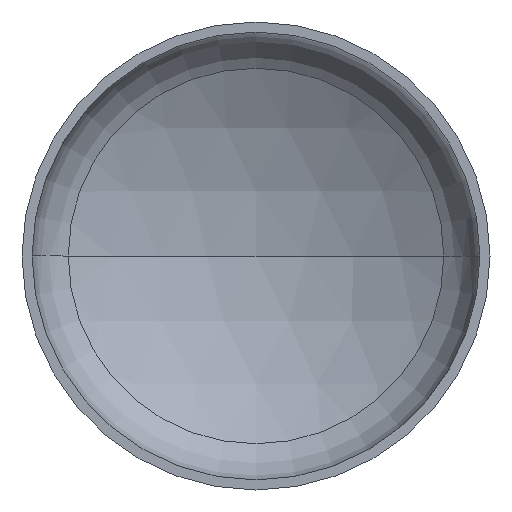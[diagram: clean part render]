
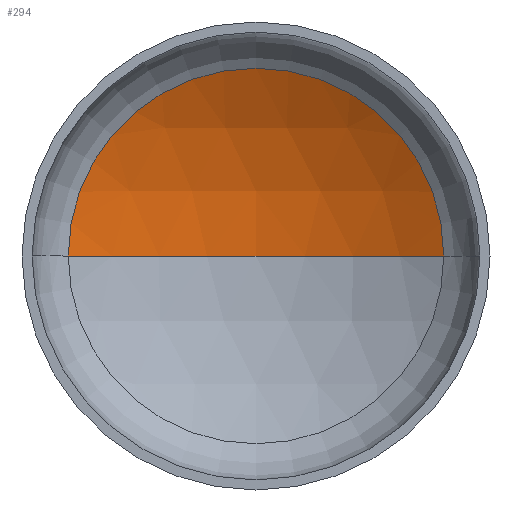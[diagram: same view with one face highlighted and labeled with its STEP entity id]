
A CAD part, front view. The second image highlights one B-rep face of the part: STEP entity #294.
In plain terms, the highlighted spherical face has radius 1600 mm.
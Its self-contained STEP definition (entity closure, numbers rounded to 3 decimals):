
#14 = DIRECTION ( 'NONE',  ( -1., 0., 0. ) ) ;
#15 = EDGE_LOOP ( 'NONE', ( #97, #115, #82 ) ) ;
#16 = DIRECTION ( 'NONE',  ( 0., 0., -1. ) ) ;
#18 = VERTEX_POINT ( 'NONE', #281 ) ;
#44 = AXIS2_PLACEMENT_3D ( 'NONE', #180, #400, #186 ) ;
#59 = AXIS2_PLACEMENT_3D ( 'NONE', #305, #258, #398 ) ;
#68 = AXIS2_PLACEMENT_3D ( 'NONE', #298, #16, #14 ) ;
#71 = AXIS2_PLACEMENT_3D ( 'NONE', #329, #188, #355 ) ;
#82 = ORIENTED_EDGE ( 'NONE', *, *, #144, .T. ) ;
#97 = ORIENTED_EDGE ( 'NONE', *, *, #157, .F. ) ;
#112 = CIRCLE ( 'NONE', #68, 1600. ) ;
#115 = ORIENTED_EDGE ( 'NONE', *, *, #150, .T. ) ;
#116 = VERTEX_POINT ( 'NONE', #322 ) ;
#121 = VERTEX_POINT ( 'NONE', #290 ) ;
#144 = EDGE_CURVE ( 'NONE', #18, #116, #319, .T. ) ;
#150 = EDGE_CURVE ( 'NONE', #121, #18, #112, .T. ) ;
#157 = EDGE_CURVE ( 'NONE', #121, #116, #195, .T. ) ;
#172 = FACE_OUTER_BOUND ( 'NONE', #15, .T. ) ;
#180 = CARTESIAN_POINT ( 'NONE',  ( 0., -986.016, 0. ) ) ;
#186 = DIRECTION ( 'NONE',  ( -1., 0., 0. ) ) ;
#188 = DIRECTION ( 'NONE',  ( 0., -1., 0. ) ) ;
#195 = CIRCLE ( 'NONE', #59, 1600. ) ;
#258 = DIRECTION ( 'NONE',  ( 0., 0., 1. ) ) ;
#281 = CARTESIAN_POINT ( 'NONE',  ( 802.481, 398.19, 0. ) ) ;
#290 = CARTESIAN_POINT ( 'NONE',  ( 0., 613.984, 0. ) ) ;
#294 = ADVANCED_FACE ( 'NONE', ( #172 ), #410, .F. ) ;
#298 = CARTESIAN_POINT ( 'NONE',  ( 0., -986.016, 0. ) ) ;
#305 = CARTESIAN_POINT ( 'NONE',  ( 0., -986.016, 0. ) ) ;
#319 = CIRCLE ( 'NONE', #71, 802.481 ) ;
#322 = CARTESIAN_POINT ( 'NONE',  ( -802.481, 398.19, 0. ) ) ;
#329 = CARTESIAN_POINT ( 'NONE',  ( 0., 398.19, 0. ) ) ;
#355 = DIRECTION ( 'NONE',  ( 1., 0., 0. ) ) ;
#398 = DIRECTION ( 'NONE',  ( 1., 0., 0. ) ) ;
#400 = DIRECTION ( 'NONE',  ( 0., 0., -1. ) ) ;
#410 = SPHERICAL_SURFACE ( 'NONE', #44, 1600. ) ;
